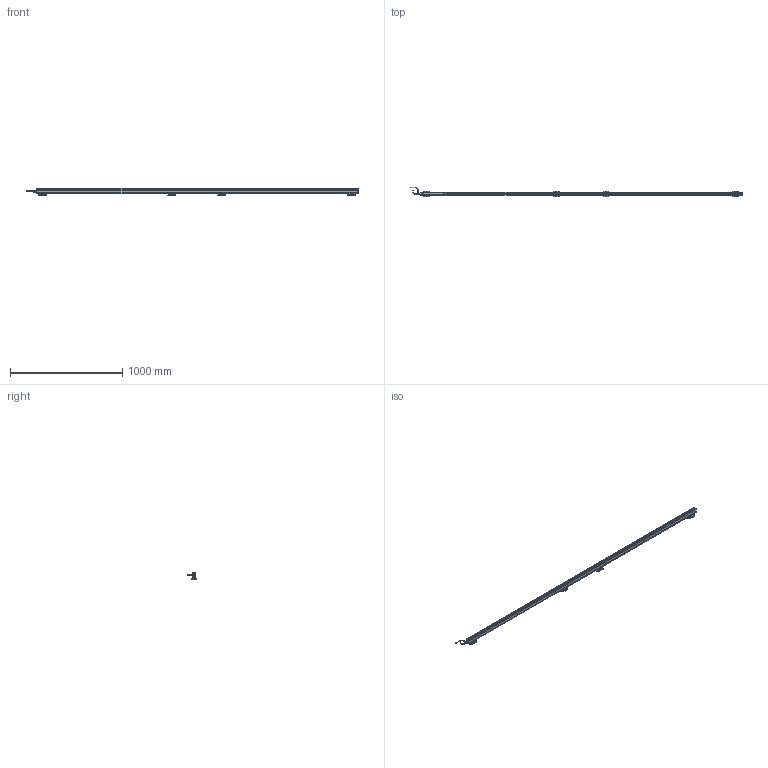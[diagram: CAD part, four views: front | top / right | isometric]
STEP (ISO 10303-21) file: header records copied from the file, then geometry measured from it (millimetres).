
FILE_DESCRIPTION(('Bauteilbeschreibung','HiCAD-Model','HiCAD-STEP-TRANSLATION','Bauteilbeschreibung'),'2;1');
FILE_NAME('PERFORMAXIQEASY_2790-2880_3D.STP','2014-03-05T13:09:28+00:00',('Konstrukteur'),('Konstrukteur Firma GmbH'),' HiCAD 2011, Step 1600.0 ','HiCAD 2011','confidential');
FILE_SCHEMA(('AUTOMOTIVE_DESIGN { 1 2 10303 214 0 1 1 1 }'));
Products named in the file (46): PERFORMAXIQEASY_2790_2880_3D; A_PERFORMAX IQ EASY 2790_2880; A_PERFORMAX IQ EASY SPEED; A_CAP DE; A_CAP CE_5; LED_2C_3MM; LED02C03MM; A519020315_CONNECTOR APPLIANCE; A_INSERT; A_CONTACTS; A_HOUSING; A_PROFILE; A_POTTING; PIN; PIN0; A532000100_BRACKET BARS_ MOUNT; A_SIDE PIECE; A0SIDE0PIECE; A_BRACKET SMALL; A_SLIDE PIECE; A5320001000BRACKET0BARS00MOUNT; A0SIDE0PIECE0; A0SIDE0PIECE1; A0BRACKET0SMALL; A0SLIDE0PIECE; A5320001000BRACKET0BARS00MOUNT0; A0SIDE0PIECE2; A0SIDE0PIECE3; A0BRACKET0SMALL0; A0SLIDE0PIECE0; A0SIDE0PIECE4; A0SIDE0PIECE5; A0BRACKET0SMALL1; A0SLIDE0PIECE1; A_CONNECTOR STRAIGHT; EXTRUDED SOLID_0; DRAAD GEBOGEN; REVOLVED SOLID_1; REVOLVED SOLID_3; A_CONNECTOR ANGLED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
Assembly tree (45 placements, depth 5):
  PERFORMAXIQEASY_2790_2880_3D
    A_PERFORMAX IQ EASY 2790_2880
      A_PERFORMAX IQ EASY SPEED
        A_CAP DE
        A_CAP CE_5
        LED_2C_3MM
        LED02C03MM
        A519020315_CONNECTOR APPLIANCE
          A_INSERT
          A_CONTACTS
          A_HOUSING
        A_PROFILE
        A_POTTING
        PIN
        PIN0
      A532000100_BRACKET BARS_ MOUNT
        A_SIDE PIECE
        A0SIDE0PIECE
        A_BRACKET SMALL
        A_SLIDE PIECE
      A5320001000BRACKET0BARS00MOUNT
        A0SIDE0PIECE0
        A0SIDE0PIECE1
        A0BRACKET0SMALL
        A0SLIDE0PIECE
      A5320001000BRACKET0BARS00MOUNT0
        A0SIDE0PIECE2
        A0SIDE0PIECE3
        A0BRACKET0SMALL0
        A0SLIDE0PIECE0
      A5320001000BRACKET0BARS00MOUNT0
        A0SIDE0PIECE4
        A0SIDE0PIECE5
        A0BRACKET0SMALL1
        A0SLIDE0PIECE1
      A_CONNECTOR STRAIGHT
        EXTRUDED SOLID_0
        DRAAD GEBOGEN
        REVOLVED SOLID_1
        REVOLVED SOLID_3
      A_CONNECTOR ANGLED
        REVOLVED0SOLID01
        EXTRUDED0SOLID00
        C_EDGE SWEEP_0
        REVOLVED SOLID_2
        REVOLVED0SOLID03
Bounding box: 2957.89 x 84.22 x 63.13 mm (x, y, z)
Volume: 2957083 mm3; surface area: 715309.1 mm2
Topology: 41 solids, 41 shells, 3447 faces, 8839 edges, 5258 vertices
Faces by surface type: cylinder 1457, plane 1315, sphere 222, torus 205, bspline 168, cone 80
Full cylindrical faces by diameter (mm): 0.8 x10, 1 x5, 2.387 x8, 3 x19, 3.1 x1, 4.2 x2, 5 x4, 5.5 x20, 8 x2, 8.2 x1, 8.4 x2, 8.945 x1, 9 x2, 10.2 x1, 10.5 x3, 11 x1, 12 x3, 12.8 x1, 13.8 x4, 14.5 x3
Entity records: 159221 total; most frequent: CARTESIAN_POINT 37152, DIRECTION 17145, ORIENTED_EDGE 16748, EDGE_CURVE 8374, COLOUR_RGB 7959, PRESENTATION_STYLE_ASSIGNMENT 7959, OVER_RIDING_STYLED_ITEM 7923, CURVE_STYLE 7918
